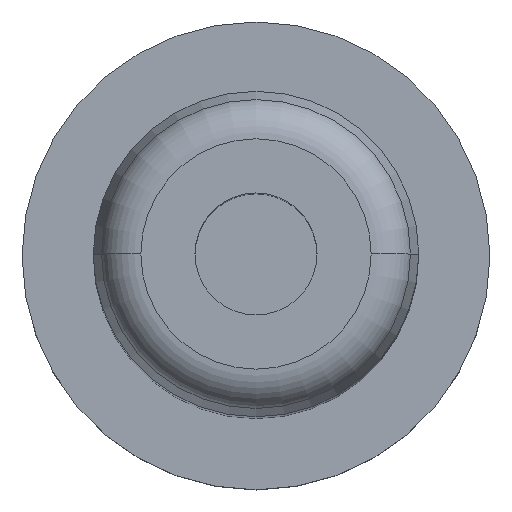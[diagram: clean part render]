
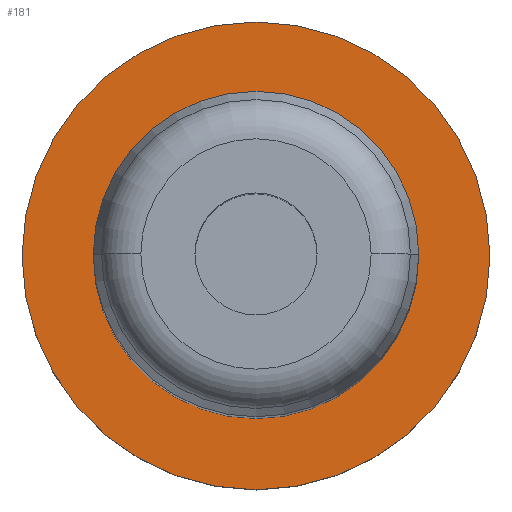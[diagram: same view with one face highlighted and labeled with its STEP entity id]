
A CAD part, top view. The second image highlights one B-rep face of the part: STEP entity #181.
In plain terms, the highlighted planar face has unit normal (0, 0, 1).
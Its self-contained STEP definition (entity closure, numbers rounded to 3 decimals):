
#111=FACE_BOUND('',#244,.T.);
#112=FACE_BOUND('',#245,.T.);
#181=ADVANCED_FACE('',(#111,#112),#201,.T.);
#201=PLANE('',#542);
#244=EDGE_LOOP('',(#311,#312));
#245=EDGE_LOOP('',(#313,#314));
#311=ORIENTED_EDGE('',*,*,#439,.F.);
#312=ORIENTED_EDGE('',*,*,#440,.F.);
#313=ORIENTED_EDGE('',*,*,#438,.T.);
#314=ORIENTED_EDGE('',*,*,#436,.T.);
#393=VERTEX_POINT('',#782);
#394=VERTEX_POINT('',#784);
#395=VERTEX_POINT('',#790);
#396=VERTEX_POINT('',#791);
#436=EDGE_CURVE('',#394,#393,#487,.T.);
#438=EDGE_CURVE('',#393,#394,#488,.T.);
#439=EDGE_CURVE('',#395,#396,#489,.T.);
#440=EDGE_CURVE('',#396,#395,#490,.T.);
#487=CIRCLE('',#536,7.);
#488=CIRCLE('',#538,7.);
#489=CIRCLE('',#540,11.5);
#490=CIRCLE('',#541,11.5);
#536=AXIS2_PLACEMENT_3D('',#783,#637,#638);
#538=AXIS2_PLACEMENT_3D('',#787,#642,#643);
#540=AXIS2_PLACEMENT_3D('',#789,#646,#647);
#541=AXIS2_PLACEMENT_3D('',#792,#648,#649);
#542=AXIS2_PLACEMENT_3D('',#793,#650,#651);
#637=DIRECTION('',(0.,0.,-1.));
#638=DIRECTION('',(0.,1.,0.));
#642=DIRECTION('',(0.,0.,-1.));
#643=DIRECTION('',(0.,-1.,0.));
#646=DIRECTION('',(0.,0.,-1.));
#647=DIRECTION('',(0.,1.,0.));
#648=DIRECTION('',(0.,0.,-1.));
#649=DIRECTION('',(0.,-1.,0.));
#650=DIRECTION('',(0.,0.,1.));
#651=DIRECTION('',(0.,-1.,0.));
#782=CARTESIAN_POINT('',(-7.,0.,5.));
#783=CARTESIAN_POINT('',(0.,0.,5.));
#784=CARTESIAN_POINT('',(7.,0.,5.));
#787=CARTESIAN_POINT('',(0.,0.,5.));
#789=CARTESIAN_POINT('',(0.,0.,5.));
#790=CARTESIAN_POINT('',(11.5,0.,5.));
#791=CARTESIAN_POINT('',(-11.5,0.,5.));
#792=CARTESIAN_POINT('',(0.,0.,5.));
#793=CARTESIAN_POINT('',(0.,0.,5.));
